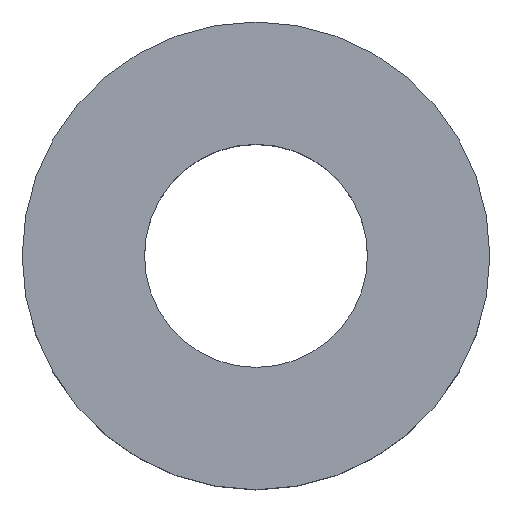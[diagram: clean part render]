
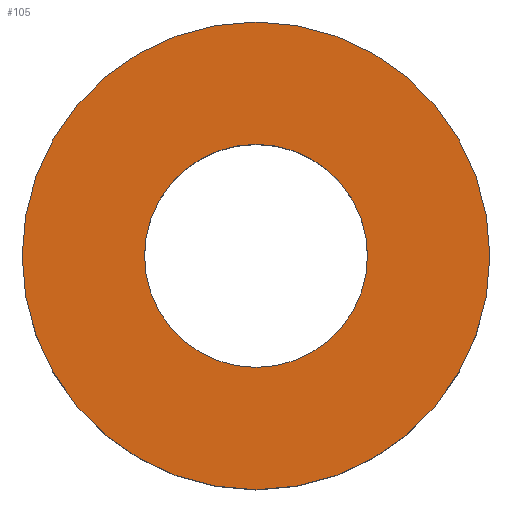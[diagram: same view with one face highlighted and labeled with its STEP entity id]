
A CAD part, top view. The second image highlights one B-rep face of the part: STEP entity #105.
In plain terms, the highlighted planar face has unit normal (0, 0, 1).
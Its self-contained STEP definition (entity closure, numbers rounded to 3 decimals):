
#21 = EDGE_CURVE('',#22,#22,#24,.T.);
#22 = VERTEX_POINT('',#23);
#23 = CARTESIAN_POINT('',(148.,0.,100.));
#24 = SURFACE_CURVE('',#25,(#30,#42),.PCURVE_S1.);
#25 = CIRCLE('',#26,13.);
#26 = AXIS2_PLACEMENT_3D('',#27,#28,#29);
#27 = CARTESIAN_POINT('',(135.,0.,100.));
#28 = DIRECTION('',(0.,0.,1.));
#29 = DIRECTION('',(1.,0.,-0.));
#30 = PCURVE('',#31,#36);
#31 = CYLINDRICAL_SURFACE('',#32,13.);
#32 = AXIS2_PLACEMENT_3D('',#33,#34,#35);
#33 = CARTESIAN_POINT('',(135.,0.,91.));
#34 = DIRECTION('',(0.,0.,1.));
#35 = DIRECTION('',(1.,0.,-0.));
#36 = DEFINITIONAL_REPRESENTATION('',(#37),#41);
#37 = LINE('',#38,#39);
#38 = CARTESIAN_POINT('',(0.,9.));
#39 = VECTOR('',#40,1.);
#40 = DIRECTION('',(1.,0.));
#41 = ( GEOMETRIC_REPRESENTATION_CONTEXT(2) 
PARAMETRIC_REPRESENTATION_CONTEXT() REPRESENTATION_CONTEXT('2D SPACE',''
  ) );
#42 = PCURVE('',#43,#48);
#43 = PLANE('',#44);
#44 = AXIS2_PLACEMENT_3D('',#45,#46,#47);
#45 = CARTESIAN_POINT('',(135.,0.,100.));
#46 = DIRECTION('',(0.,0.,1.));
#47 = DIRECTION('',(1.,0.,-0.));
#48 = DEFINITIONAL_REPRESENTATION('',(#49),#53);
#49 = CIRCLE('',#50,13.);
#50 = AXIS2_PLACEMENT_2D('',#51,#52);
#51 = CARTESIAN_POINT('',(0.,0.));
#52 = DIRECTION('',(1.,0.));
#53 = ( GEOMETRIC_REPRESENTATION_CONTEXT(2) 
PARAMETRIC_REPRESENTATION_CONTEXT() REPRESENTATION_CONTEXT('2D SPACE',''
  ) );
#105 = ADVANCED_FACE('',(#106,#109),#43,.T.);
#106 = FACE_BOUND('',#107,.T.);
#107 = EDGE_LOOP('',(#108));
#108 = ORIENTED_EDGE('',*,*,#21,.T.);
#109 = FACE_BOUND('',#110,.T.);
#110 = EDGE_LOOP('',(#111));
#111 = ORIENTED_EDGE('',*,*,#112,.F.);
#112 = EDGE_CURVE('',#113,#113,#115,.T.);
#113 = VERTEX_POINT('',#114);
#114 = CARTESIAN_POINT('',(141.2,0.,100.));
#115 = SURFACE_CURVE('',#116,(#121,#128),.PCURVE_S1.);
#116 = CIRCLE('',#117,6.2);
#117 = AXIS2_PLACEMENT_3D('',#118,#119,#120);
#118 = CARTESIAN_POINT('',(135.,0.,100.));
#119 = DIRECTION('',(0.,0.,1.));
#120 = DIRECTION('',(1.,0.,-0.));
#121 = PCURVE('',#43,#122);
#122 = DEFINITIONAL_REPRESENTATION('',(#123),#127);
#123 = CIRCLE('',#124,6.2);
#124 = AXIS2_PLACEMENT_2D('',#125,#126);
#125 = CARTESIAN_POINT('',(0.,0.));
#126 = DIRECTION('',(1.,0.));
#127 = ( GEOMETRIC_REPRESENTATION_CONTEXT(2) 
PARAMETRIC_REPRESENTATION_CONTEXT() REPRESENTATION_CONTEXT('2D SPACE',''
  ) );
#128 = PCURVE('',#129,#134);
#129 = CYLINDRICAL_SURFACE('',#130,6.2);
#130 = AXIS2_PLACEMENT_3D('',#131,#132,#133);
#131 = CARTESIAN_POINT('',(135.,0.,91.));
#132 = DIRECTION('',(0.,0.,1.));
#133 = DIRECTION('',(1.,0.,-0.));
#134 = DEFINITIONAL_REPRESENTATION('',(#135),#139);
#135 = LINE('',#136,#137);
#136 = CARTESIAN_POINT('',(0.,9.));
#137 = VECTOR('',#138,1.);
#138 = DIRECTION('',(1.,0.));
#139 = ( GEOMETRIC_REPRESENTATION_CONTEXT(2) 
PARAMETRIC_REPRESENTATION_CONTEXT() REPRESENTATION_CONTEXT('2D SPACE',''
  ) );
